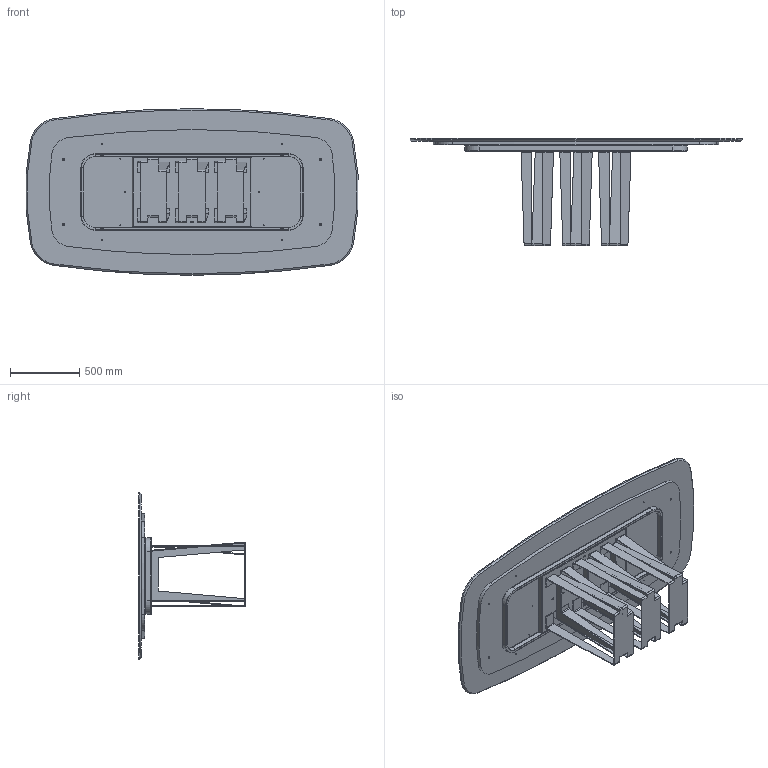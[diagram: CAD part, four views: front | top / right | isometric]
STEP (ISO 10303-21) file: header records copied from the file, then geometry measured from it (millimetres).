
FILE_DESCRIPTION (( 'STEP AP203' ), '1' );
FILE_NAME ('NA43M.STEP', '2024-08-07T14:41:31', ( '' ), ( '' ), 'SwSTEP 2.0', 'SolidWorks 2022', '' );
FILE_SCHEMA (( 'CONFIG_CONTROL_DESIGN' ));
Length unit declared in the file: millimetre
Products named in the file (9): TRUXXXXXX-00-NOBILITATO GR CON SUPP TRUCIOLARE SP. 25_TRU00007_2100x900; M4XMXX-00-Piani Sagomati in marmo_2400x1200; NA43M; M8xXXmm_M8x55mm; M4X-00-Piani Sagomati in marmo_2400 x 1200; TTAV01-01-TELAIO UNIVERSALE X TAVOLI 180 240cm; TTAV01_02-01-VASSOIO IRRIGIDIMENTO TELAIO UNIVERSALE; NAB000000-00-NARCISO BASE SING. GREZZA; TTAV01_01-01-TELAIO UNIVERSALE X TAVOLI 180 240cm_Default<A macchina>
Assembly tree (19 placements, depth 3):
  NA43M
    M4XMXX-00-Piani Sagomati in marmo_2400x1200
      M4X-00-Piani Sagomati in marmo_2400 x 1200
      TRUXXXXXX-00-NOBILITATO GR CON SUPP TRUCIOLARE SP. 25_TRU00007_2100x900
    TTAV01-01-TELAIO UNIVERSALE X TAVOLI 180 240cm
      TTAV01_01-01-TELAIO UNIVERSALE X TAVOLI 180 240cm_Default<A macchina>
      TTAV01_02-01-VASSOIO IRRIGIDIMENTO TELAIO UNIVERSALE
    NAB000000-00-NARCISO BASE SING. GREZZA  x3
    M8xXXmm_M8x55mm  x10
Bounding box: 2391.9 x 770 x 1200 mm (x, y, z)
Volume: 107403697.7 mm3; surface area: 13896626 mm2
Topology: 27 solids, 27 shells, 1188 faces, 2914 edges, 1751 vertices
Faces by surface type: plane 579, cylinder 330, cone 171, torus 72, bspline 36
Entity records: 20364 total; most frequent: CARTESIAN_POINT 3619, DIRECTION 3355, ORIENTED_EDGE 3136, EDGE_CURVE 1568, AXIS2_PLACEMENT_3D 1207, VERTEX_POINT 995, LINE 941, VECTOR 941
